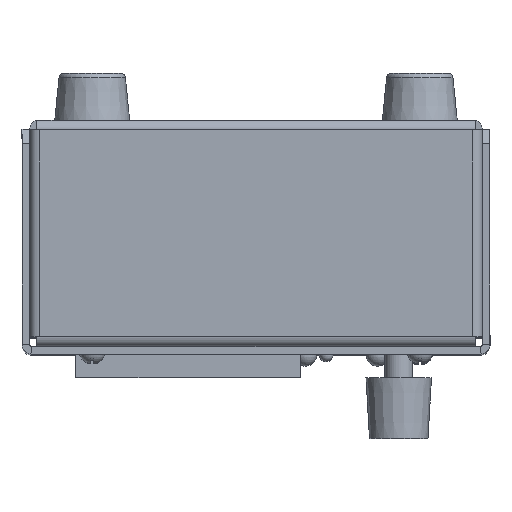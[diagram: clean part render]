
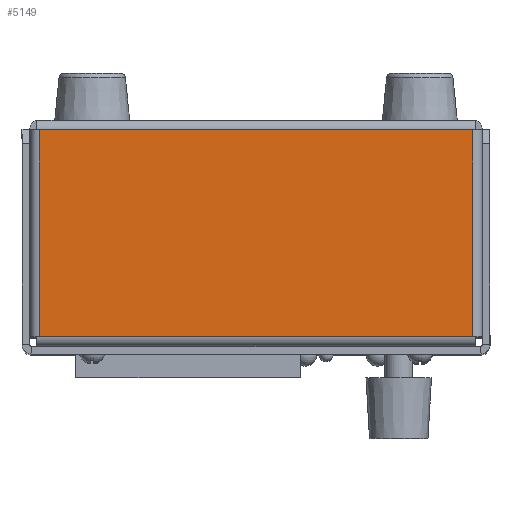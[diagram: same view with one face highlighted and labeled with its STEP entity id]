
A CAD part, top view. The second image highlights one B-rep face of the part: STEP entity #5149.
In plain terms, the highlighted planar face has unit normal (0, 0, 1) as drawn and (-1, 0, 0) by its records, which use the part's own axes.
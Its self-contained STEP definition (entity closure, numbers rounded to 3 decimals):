
#5149=ADVANCED_FACE('',(#11167),#11168,.F.);
#11167=FACE_OUTER_BOUND('',#23050,.T.);
#11168=PLANE('',#23051);
#23050=EDGE_LOOP('',(#36552,#36553,#36554,#36555));
#23051=AXIS2_PLACEMENT_3D('',#36556,#36557,#36558);
#36552=ORIENTED_EDGE('',*,*,#84045,.F.);
#36553=ORIENTED_EDGE('',*,*,#84093,.F.);
#36554=ORIENTED_EDGE('',*,*,#84065,.F.);
#36555=ORIENTED_EDGE('',*,*,#84101,.T.);
#36556=CARTESIAN_POINT('',(-108.4,50.0,0.0));
#36557=DIRECTION('',(1.0,0.0,0.0));
#36558=DIRECTION('',(0.0,-1.0,0.0));
#84045=EDGE_CURVE('',#99602,#99593,#99604,.T.);
#84065=EDGE_CURVE('',#99636,#99627,#99638,.T.);
#84093=EDGE_CURVE('',#99627,#99602,#99680,.T.);
#84101=EDGE_CURVE('',#99636,#99593,#99691,.T.);
#99593=VERTEX_POINT('',#125488);
#99602=VERTEX_POINT('',#125498);
#99604=LINE('',#125500,#125501);
#99627=VERTEX_POINT('',#125536);
#99636=VERTEX_POINT('',#125546);
#99638=LINE('',#125548,#125549);
#99680=LINE('',#125610,#125611);
#99691=LINE('',#125626,#125627);
#125488=CARTESIAN_POINT('',(-108.4,-43.1,2.1));
#125498=CARTESIAN_POINT('',(-108.4,-43.1,46.3));
#125500=CARTESIAN_POINT('',(-108.4,-43.1,46.3));
#125501=VECTOR('',#166118,1.0);
#125536=CARTESIAN_POINT('',(-108.4,49.5,46.3));
#125546=CARTESIAN_POINT('',(-108.4,49.5,2.1));
#125548=CARTESIAN_POINT('',(-108.4,49.5,2.1));
#125549=VECTOR('',#166150,1.0);
#125610=CARTESIAN_POINT('',(-108.4,50.0,46.3));
#125611=VECTOR('',#166194,1.0);
#125626=CARTESIAN_POINT('',(-108.4,50.0,2.1));
#125627=VECTOR('',#166208,1.0);
#166118=DIRECTION('',(0.0,0.0,-1.0));
#166150=DIRECTION('',(0.0,0.0,1.0));
#166194=DIRECTION('',(0.0,-1.0,0.0));
#166208=DIRECTION('',(0.0,-1.0,0.0));
